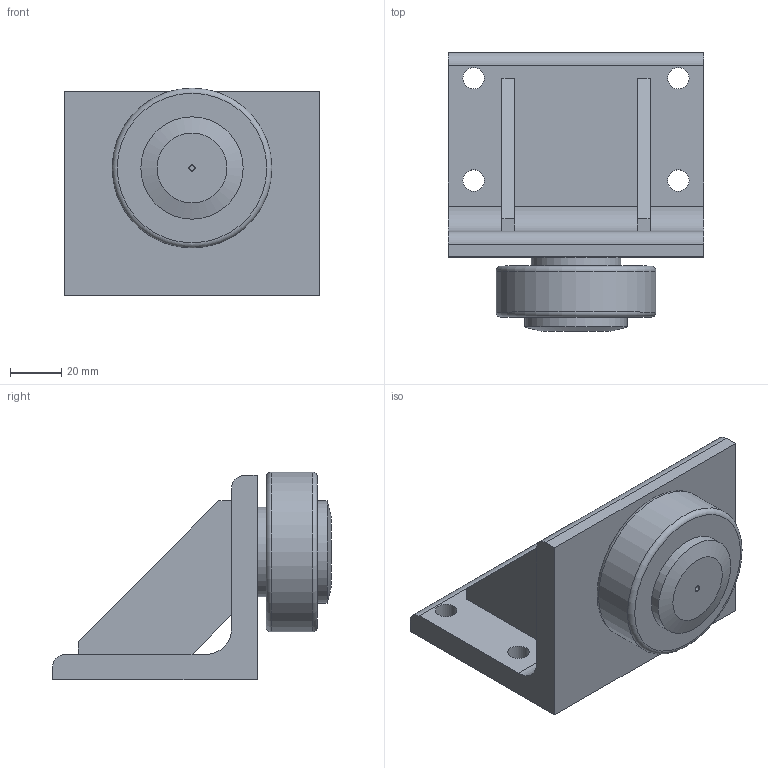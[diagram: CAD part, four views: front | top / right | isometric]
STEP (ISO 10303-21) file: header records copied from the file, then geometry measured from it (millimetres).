
FILE_DESCRIPTION(/* description */ ('-','CAx-IF Rec.Pracs.---Representation and Presentation of Product Manufacturing Information (PMI)---4.0---2014-10-13'),/* implementation_level */ '2;1');
FILE_NAME(/* name */ 'c:\temp\f8160f9b-ac79-436b-a654-4f64552d5836\8b7dce4f-3556-4e82-99b4-0750a2ff112b.stp',/* time_stamp */ '2020-04-01T16:11:06+02:00',/* author */ ('-'),/* organization */ ('NTI CADcenter A/S'),/* preprocessor_version */ 'ST-DEVELOPER v18',/* originating_system */ 'Autodesk Inventor 2020',/* authorisation */ '-');
FILE_SCHEMA (('AP242_MANAGED_MODEL_BASED_3D_ENGINEERING_MIM_LF { 1 0 10303 442 1 1 4 }'));
Length unit declared in the file: millimetre
Products named in the file (1): PAS 060.0360 BW1200_Kontur
Bounding box: 100 x 109 x 81.25 mm (x, y, z)
Volume: 237576.8 mm3; surface area: 51833.8 mm2
Topology: 1 solids, 1 shells, 43 faces, 118 edges, 83 vertices
Faces by surface type: plane 26, cylinder 12, cone 3, torus 2
Full cylindrical faces by diameter (mm): 2 x1, 6.647 x1, 8.376 x4, 35 x1, 40 x1, 62.5 x1
Entity records: 1470 total; most frequent: DIRECTION 255, CARTESIAN_POINT 245, ORIENTED_EDGE 236, EDGE_CURVE 118, AXIS2_PLACEMENT_3D 93, VERTEX_POINT 83, LINE 69, VECTOR 69
